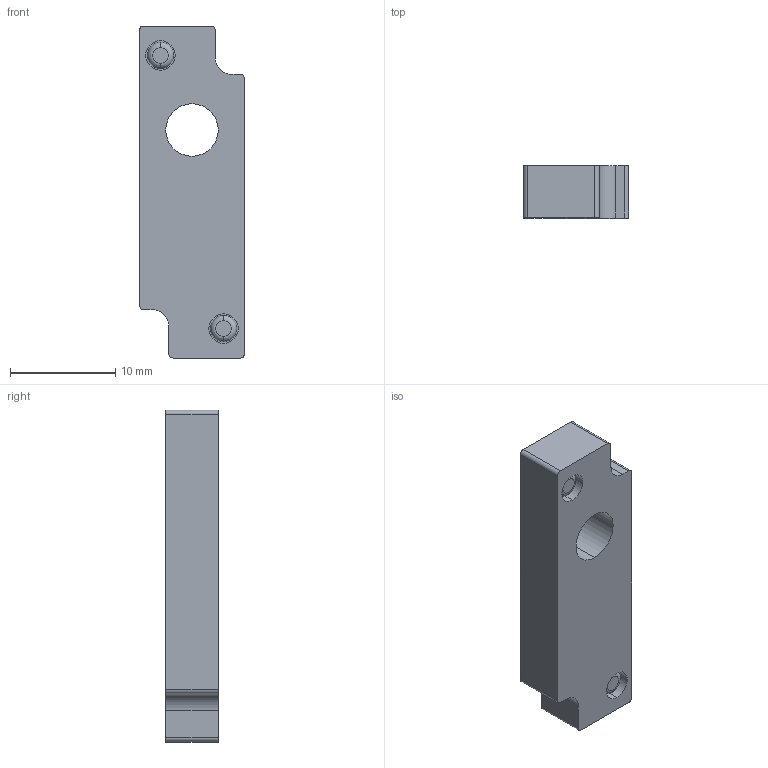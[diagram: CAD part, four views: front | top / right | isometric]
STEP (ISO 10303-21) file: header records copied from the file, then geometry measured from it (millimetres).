
FILE_DESCRIPTION( (''), '2;1');
FILE_NAME ('CVICAD02.17696.F10_Port_VMA_6694.stp','2020-09-01T14:14:49',(''),(''),'spGate 12.6.6','','');
FILE_SCHEMA (('AUTOMOTIVE_DESIGN'));
Length unit declared in the file: millimetre
Bounding box: 10 x 5 x 31.6 mm (x, y, z)
Volume: 1349.3 mm3; surface area: 1047.4 mm2
Topology: 1 solids, 1 shells, 32 faces, 79 edges, 53 vertices
Faces by surface type: plane 14, cylinder 14, bspline 4
Entity records: 1706 total; most frequent: CARTESIAN_POINT 276, DIRECTION 162, ORIENTED_EDGE 158, COLOUR_RGB 112, PRESENTATION_STYLE_ASSIGNMENT 112, STYLED_ITEM 112, EDGE_CURVE 79, DRAUGHTING_PRE_DEFINED_CURVE_FONT 79
